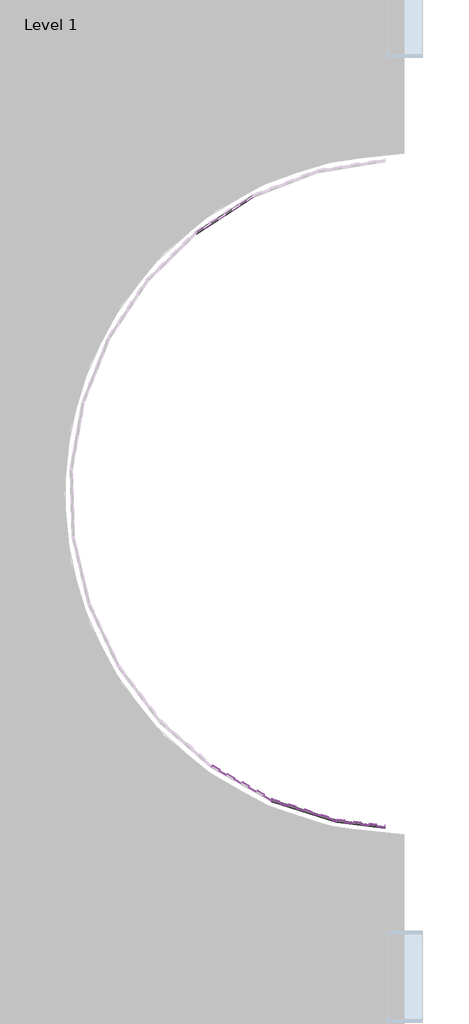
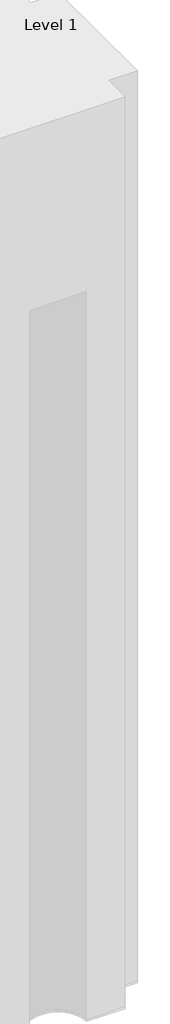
# One storey, part 14 of 20: 124 plates.
"""IFC4 building model written with IfcOpenShell, lengths in millimetres."""

from ifc_helpers import new_model, si_unit, origin, place, context, project, spatial, transform, mapped, element, save
from components import system_panel_glazed_d77d1ebf, system_panel_glazed_769dbdec

model = new_model("IFC4")

# Units and contexts
model_context = context("Model", 3, world=origin())
ifc_project = project(units=[si_unit("LENGTHUNIT", "METRE", prefix="MILLI")], contexts=[model_context])

# Site, building, storey
site = spatial("IfcSite", under=ifc_project)
building = spatial("IfcBuilding", under=site)
storey = spatial("IfcBuildingStorey", under=building, Name="Level 1", Elevation=0.0)

# Plates
placement = place(None, origin())
system_panel_glazed_shape = system_panel_glazed_d77d1ebf(model_context)
element("IfcPlate", 1, ObjectType="System Panel : Glazed", at=placement, inside=storey, context=model_context, shape_type="MappedRepresentation", body=[
    mapped(system_panel_glazed_shape, transform((17428.515669, -10408.6049412, 0.0), x_axis=(0.953815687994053, -0.30039246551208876, 0.0), y_axis=(0.30039246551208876, 0.953815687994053, 0.0), z_axis=(0.0, 0.0, 1.0))),
])
element("IfcPlate", 2, ObjectType="System Panel : Glazed", at=placement, inside=storey, context=model_context, shape_type="MappedRepresentation", body=[
    mapped(system_panel_glazed_shape, transform((17428.515669, -10408.6049412, 3048.0), x_axis=(0.953815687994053, -0.30039246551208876, 0.0), y_axis=(0.30039246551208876, 0.953815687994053, 0.0), z_axis=(0.0, 0.0, 1.0))),
])
element("IfcPlate", 3, ObjectType="System Panel : Glazed", at=placement, inside=storey, context=model_context, shape_type="MappedRepresentation", body=[
    mapped(system_panel_glazed_shape, transform((17428.515669, -10408.6049412, 6096.0), x_axis=(0.953815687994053, -0.30039246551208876, 0.0), y_axis=(0.30039246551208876, 0.953815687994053, 0.0), z_axis=(0.0, 0.0, 1.0))),
])
element("IfcPlate", 4, ObjectType="System Panel : Glazed", at=placement, inside=storey, context=model_context, shape_type="MappedRepresentation", body=[
    mapped(system_panel_glazed_shape, transform((17428.515669, -10408.6049412, 9144.0), x_axis=(0.953815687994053, -0.30039246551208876, 0.0), y_axis=(0.30039246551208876, 0.953815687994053, 0.0), z_axis=(0.0, 0.0, 1.0))),
])
element("IfcPlate", 5, ObjectType="System Panel : Glazed", at=placement, inside=storey, context=model_context, shape_type="MappedRepresentation", body=[
    mapped(system_panel_glazed_shape, transform((17428.515669, -10408.6049412, 12192.0), x_axis=(0.953815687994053, -0.30039246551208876, 0.0), y_axis=(0.30039246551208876, 0.953815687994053, 0.0), z_axis=(0.0, 0.0, 1.0))),
])
element("IfcPlate", 6, ObjectType="System Panel : Glazed", at=placement, inside=storey, context=model_context, shape_type="MappedRepresentation", body=[
    mapped(system_panel_glazed_shape, transform((17428.515669, -10408.6049412, 15240.0), x_axis=(0.953815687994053, -0.30039246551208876, 0.0), y_axis=(0.30039246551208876, 0.953815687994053, 0.0), z_axis=(0.0, 0.0, 1.0))),
])
element("IfcPlate", 7, ObjectType="System Panel : Glazed", at=placement, inside=storey, context=model_context, shape_type="MappedRepresentation", body=[
    mapped(system_panel_glazed_shape, transform((17428.515669, -10408.6049412, 18288.0), x_axis=(0.953815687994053, -0.30039246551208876, 0.0), y_axis=(0.30039246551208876, 0.953815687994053, 0.0), z_axis=(0.0, 0.0, 1.0))),
])
element("IfcPlate", 8, ObjectType="System Panel : Glazed", at=placement, inside=storey, context=model_context, shape_type="MappedRepresentation", body=[
    mapped(system_panel_glazed_shape, transform((17428.515669, -10408.6049412, 21336.0), x_axis=(0.953815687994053, -0.30039246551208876, 0.0), y_axis=(0.30039246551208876, 0.953815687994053, 0.0), z_axis=(0.0, 0.0, 1.0))),
])
element("IfcPlate", 9, ObjectType="System Panel : Glazed", at=placement, inside=storey, context=model_context, shape_type="MappedRepresentation", body=[
    mapped(system_panel_glazed_shape, transform((17428.515669, -10408.6049412, 24384.0), x_axis=(0.953815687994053, -0.30039246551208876, 0.0), y_axis=(0.30039246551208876, 0.953815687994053, 0.0), z_axis=(0.0, 0.0, 1.0))),
])
element("IfcPlate", 10, ObjectType="System Panel : Glazed", at=placement, inside=storey, context=model_context, shape_type="MappedRepresentation", body=[
    mapped(system_panel_glazed_shape, transform((17428.515669, -10408.6049412, 27432.0), x_axis=(0.953815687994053, -0.30039246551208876, 0.0), y_axis=(0.30039246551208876, 0.953815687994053, 0.0), z_axis=(0.0, 0.0, 1.0))),
])
element("IfcPlate", 11, ObjectType="System Panel : Glazed", at=placement, inside=storey, context=model_context, shape_type="MappedRepresentation", body=[
    mapped(system_panel_glazed_shape, transform((17428.515669, -10408.6049412, 30480.0), x_axis=(0.953815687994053, -0.30039246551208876, 0.0), y_axis=(0.30039246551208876, 0.953815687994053, 0.0), z_axis=(0.0, 0.0, 1.0))),
])
element("IfcPlate", 12, ObjectType="System Panel : Glazed", at=placement, inside=storey, context=model_context, shape_type="MappedRepresentation", body=[
    mapped(system_panel_glazed_shape, transform((17428.515669, -10408.6049412, 33528.0), x_axis=(0.953815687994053, -0.30039246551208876, 0.0), y_axis=(0.30039246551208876, 0.953815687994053, 0.0), z_axis=(0.0, 0.0, 1.0))),
])
element("IfcPlate", 13, ObjectType="System Panel : Glazed", at=placement, inside=storey, context=model_context, shape_type="MappedRepresentation", body=[
    mapped(system_panel_glazed_shape, transform((17428.515669, -10408.6049412, 36576.0), x_axis=(0.953815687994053, -0.30039246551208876, 0.0), y_axis=(0.30039246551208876, 0.953815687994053, 0.0), z_axis=(0.0, 0.0, 1.0))),
])
element("IfcPlate", 14, ObjectType="System Panel : Glazed", at=placement, inside=storey, context=model_context, shape_type="MappedRepresentation", body=[
    mapped(system_panel_glazed_shape, transform((17428.515669, -10408.6049412, 39624.0), x_axis=(0.953815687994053, -0.30039246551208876, 0.0), y_axis=(0.30039246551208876, 0.953815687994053, 0.0), z_axis=(0.0, 0.0, 1.0))),
])
element("IfcPlate", 15, ObjectType="System Panel : Glazed", at=placement, inside=storey, context=model_context, shape_type="MappedRepresentation", body=[
    mapped(system_panel_glazed_shape, transform((17428.515669, -10408.6049412, 42672.0), x_axis=(0.953815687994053, -0.30039246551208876, 0.0), y_axis=(0.30039246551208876, 0.953815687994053, 0.0), z_axis=(0.0, 0.0, 1.0))),
])
element("IfcPlate", 16, ObjectType="System Panel : Glazed", at=placement, inside=storey, context=model_context, shape_type="MappedRepresentation", body=[
    mapped(system_panel_glazed_shape, transform((17428.515669, -10408.6049412, 45720.0), x_axis=(0.953815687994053, -0.30039246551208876, 0.0), y_axis=(0.30039246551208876, 0.953815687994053, 0.0), z_axis=(0.0, 0.0, 1.0))),
])
element("IfcPlate", 17, ObjectType="System Panel : Glazed", at=placement, inside=storey, context=model_context, shape_type="MappedRepresentation", body=[
    mapped(system_panel_glazed_shape, transform((17428.515669, -10408.6049412, 48768.0), x_axis=(0.953815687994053, -0.30039246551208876, 0.0), y_axis=(0.30039246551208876, 0.953815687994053, 0.0), z_axis=(0.0, 0.0, 1.0))),
])
element("IfcPlate", 18, ObjectType="System Panel : Glazed", at=placement, inside=storey, context=model_context, shape_type="MappedRepresentation", body=[
    mapped(system_panel_glazed_shape, transform((17428.515669, -10408.6049412, 51816.0), x_axis=(0.953815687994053, -0.30039246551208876, 0.0), y_axis=(0.30039246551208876, 0.953815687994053, 0.0), z_axis=(0.0, 0.0, 1.0))),
])
element("IfcPlate", 19, ObjectType="System Panel : Glazed", at=placement, inside=storey, context=model_context, shape_type="MappedRepresentation", body=[
    mapped(system_panel_glazed_shape, transform((17428.515669, -10408.6049412, 54864.0), x_axis=(0.953815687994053, -0.30039246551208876, 0.0), y_axis=(0.30039246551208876, 0.953815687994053, 0.0), z_axis=(0.0, 0.0, 1.0))),
])
element("IfcPlate", 20, ObjectType="System Panel : Glazed", at=placement, inside=storey, context=model_context, shape_type="MappedRepresentation", body=[
    mapped(system_panel_glazed_shape, transform((17428.515669, -10408.6049412, 57912.0), x_axis=(0.953815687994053, -0.30039246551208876, 0.0), y_axis=(0.30039246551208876, 0.953815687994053, 0.0), z_axis=(0.0, 0.0, 1.0))),
])
element("IfcPlate", 21, ObjectType="System Panel : Glazed", at=placement, inside=storey, context=model_context, shape_type="MappedRepresentation", body=[
    mapped(system_panel_glazed_shape, transform((16593.6436197, -10047.6579112, 60960.0), x_axis=(0.8722386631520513, -0.4890804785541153, 0.0), y_axis=(0.4890804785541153, 0.8722386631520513, 0.0), z_axis=(0.0, 0.0, 1.0))),
])
element("IfcPlate", 22, ObjectType="System Panel : Glazed", at=placement, inside=storey, context=model_context, shape_type="MappedRepresentation", body=[
    mapped(system_panel_glazed_shape, transform((17428.515669, -10408.6049412, 60960.0), x_axis=(0.953815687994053, -0.30039246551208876, 0.0), y_axis=(0.30039246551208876, 0.953815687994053, 0.0), z_axis=(0.0, 0.0, 1.0))),
])
element("IfcPlate", 23, ObjectType="System Panel : Glazed", at=placement, inside=storey, context=model_context, shape_type="MappedRepresentation", body=[
    mapped(system_panel_glazed_shape, transform((16593.6436197, -10047.6579112, 64008.0), x_axis=(0.8722386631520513, -0.4890804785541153, 0.0), y_axis=(0.4890804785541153, 0.8722386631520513, 0.0), z_axis=(0.0, 0.0, 1.0))),
])
element("IfcPlate", 24, ObjectType="System Panel : Glazed", at=placement, inside=storey, context=model_context, shape_type="MappedRepresentation", body=[
    mapped(system_panel_glazed_shape, transform((17428.515669, -10408.6049412, 64008.0), x_axis=(0.953815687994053, -0.30039246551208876, 0.0), y_axis=(0.30039246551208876, 0.953815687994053, 0.0), z_axis=(0.0, 0.0, 1.0))),
])
element("IfcPlate", 25, ObjectType="System Panel : Glazed", at=placement, inside=storey, context=model_context, shape_type="MappedRepresentation", body=[
    mapped(system_panel_glazed_shape, transform((16593.6436197, -10047.6579112, 67056.0), x_axis=(0.8722386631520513, -0.4890804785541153, 0.0), y_axis=(0.4890804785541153, 0.8722386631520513, 0.0), z_axis=(0.0, 0.0, 1.0))),
])
element("IfcPlate", 26, ObjectType="System Panel : Glazed", at=placement, inside=storey, context=model_context, shape_type="MappedRepresentation", body=[
    mapped(system_panel_glazed_shape, transform((17428.515669, -10408.6049412, 67056.0), x_axis=(0.953815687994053, -0.30039246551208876, 0.0), y_axis=(0.30039246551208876, 0.953815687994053, 0.0), z_axis=(0.0, 0.0, 1.0))),
])
element("IfcPlate", 27, ObjectType="System Panel : Glazed", at=placement, inside=storey, context=model_context, shape_type="MappedRepresentation", body=[
    mapped(system_panel_glazed_shape, transform((16593.6436197, -10047.6579112, 70104.0), x_axis=(0.8722386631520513, -0.4890804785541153, 0.0), y_axis=(0.4890804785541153, 0.8722386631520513, 0.0), z_axis=(0.0, 0.0, 1.0))),
])
element("IfcPlate", 28, ObjectType="System Panel : Glazed", at=placement, inside=storey, context=model_context, shape_type="MappedRepresentation", body=[
    mapped(system_panel_glazed_shape, transform((17428.515669, -10408.6049412, 70104.0), x_axis=(0.953815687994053, -0.30039246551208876, 0.0), y_axis=(0.30039246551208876, 0.953815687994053, 0.0), z_axis=(0.0, 0.0, 1.0))),
])
element("IfcPlate", 29, ObjectType="System Panel : Glazed", at=placement, inside=storey, context=model_context, shape_type="MappedRepresentation", body=[
    mapped(system_panel_glazed_shape, transform((16593.6436197, -10047.6579112, 73152.0), x_axis=(0.8722386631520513, -0.4890804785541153, 0.0), y_axis=(0.4890804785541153, 0.8722386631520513, 0.0), z_axis=(0.0, 0.0, 1.0))),
])
element("IfcPlate", 30, ObjectType="System Panel : Glazed", at=placement, inside=storey, context=model_context, shape_type="MappedRepresentation", body=[
    mapped(system_panel_glazed_shape, transform((17428.515669, -10408.6049412, 73152.0), x_axis=(0.953815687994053, -0.30039246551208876, 0.0), y_axis=(0.30039246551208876, 0.953815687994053, 0.0), z_axis=(0.0, 0.0, 1.0))),
])
element("IfcPlate", 31, ObjectType="System Panel : Glazed", at=placement, inside=storey, context=model_context, shape_type="MappedRepresentation", body=[
    mapped(system_panel_glazed_shape, transform((16593.6436197, -10047.6579112, 76200.0), x_axis=(0.8722386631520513, -0.4890804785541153, 0.0), y_axis=(0.4890804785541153, 0.8722386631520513, 0.0), z_axis=(0.0, 0.0, 1.0))),
])
element("IfcPlate", 32, ObjectType="System Panel : Glazed", at=placement, inside=storey, context=model_context, shape_type="MappedRepresentation", body=[
    mapped(system_panel_glazed_shape, transform((17428.515669, -10408.6049412, 76200.0), x_axis=(0.953815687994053, -0.30039246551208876, 0.0), y_axis=(0.30039246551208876, 0.953815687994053, 0.0), z_axis=(0.0, 0.0, 1.0))),
])
element("IfcPlate", 33, ObjectType="System Panel : Glazed", at=placement, inside=storey, context=model_context, shape_type="MappedRepresentation", body=[
    mapped(system_panel_glazed_shape, transform((16593.6436197, -10047.6579112, 79248.0), x_axis=(0.8722386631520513, -0.4890804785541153, 0.0), y_axis=(0.4890804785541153, 0.8722386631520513, 0.0), z_axis=(0.0, 0.0, 1.0))),
])
element("IfcPlate", 34, ObjectType="System Panel : Glazed", at=placement, inside=storey, context=model_context, shape_type="MappedRepresentation", body=[
    mapped(system_panel_glazed_shape, transform((17428.515669, -10408.6049412, 79248.0), x_axis=(0.953815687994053, -0.30039246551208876, 0.0), y_axis=(0.30039246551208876, 0.953815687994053, 0.0), z_axis=(0.0, 0.0, 1.0))),
])
element("IfcPlate", 35, ObjectType="System Panel : Glazed", at=placement, inside=storey, context=model_context, shape_type="MappedRepresentation", body=[
    mapped(system_panel_glazed_shape, transform((16593.6436197, -10047.6579112, 82296.0), x_axis=(0.8722386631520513, -0.4890804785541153, 0.0), y_axis=(0.4890804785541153, 0.8722386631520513, 0.0), z_axis=(0.0, 0.0, 1.0))),
])
element("IfcPlate", 36, ObjectType="System Panel : Glazed", at=placement, inside=storey, context=model_context, shape_type="MappedRepresentation", body=[
    mapped(system_panel_glazed_shape, transform((17428.515669, -10408.6049412, 82296.0), x_axis=(0.953815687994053, -0.30039246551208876, 0.0), y_axis=(0.30039246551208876, 0.953815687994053, 0.0), z_axis=(0.0, 0.0, 1.0))),
])
element("IfcPlate", 37, ObjectType="System Panel : Glazed", at=placement, inside=storey, context=model_context, shape_type="MappedRepresentation", body=[
    mapped(system_panel_glazed_shape, transform((16593.6436197, -10047.6579112, 85344.0), x_axis=(0.8722386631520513, -0.4890804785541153, 0.0), y_axis=(0.4890804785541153, 0.8722386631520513, 0.0), z_axis=(0.0, 0.0, 1.0))),
])
element("IfcPlate", 38, ObjectType="System Panel : Glazed", at=placement, inside=storey, context=model_context, shape_type="MappedRepresentation", body=[
    mapped(system_panel_glazed_shape, transform((17428.515669, -10408.6049412, 85344.0), x_axis=(0.953815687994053, -0.30039246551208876, 0.0), y_axis=(0.30039246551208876, 0.953815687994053, 0.0), z_axis=(0.0, 0.0, 1.0))),
])
element("IfcPlate", 39, ObjectType="System Panel : Glazed", at=placement, inside=storey, context=model_context, shape_type="MappedRepresentation", body=[
    mapped(system_panel_glazed_shape, transform((16593.6436197, -10047.6579112, 88392.0), x_axis=(0.8722386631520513, -0.4890804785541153, 0.0), y_axis=(0.4890804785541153, 0.8722386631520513, 0.0), z_axis=(0.0, 0.0, 1.0))),
])
element("IfcPlate", 40, ObjectType="System Panel : Glazed", at=placement, inside=storey, context=model_context, shape_type="MappedRepresentation", body=[
    mapped(system_panel_glazed_shape, transform((17428.515669, -10408.6049412, 88392.0), x_axis=(0.953815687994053, -0.30039246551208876, 0.0), y_axis=(0.30039246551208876, 0.953815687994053, 0.0), z_axis=(0.0, 0.0, 1.0))),
])
element("IfcPlate", 41, ObjectType="System Panel : Glazed", at=placement, inside=storey, context=model_context, shape_type="MappedRepresentation", body=[
    mapped(system_panel_glazed_shape, transform((16593.6436197, -10047.6579112, 91440.0), x_axis=(0.8722386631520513, -0.4890804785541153, 0.0), y_axis=(0.4890804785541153, 0.8722386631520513, 0.0), z_axis=(0.0, 0.0, 1.0))),
])
element("IfcPlate", 42, ObjectType="System Panel : Glazed", at=placement, inside=storey, context=model_context, shape_type="MappedRepresentation", body=[
    mapped(system_panel_glazed_shape, transform((17428.515669, -10408.6049412, 91440.0), x_axis=(0.953815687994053, -0.30039246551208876, 0.0), y_axis=(0.30039246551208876, 0.953815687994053, 0.0), z_axis=(0.0, 0.0, 1.0))),
])
element("IfcPlate", 43, ObjectType="System Panel : Glazed", at=placement, inside=storey, context=model_context, shape_type="MappedRepresentation", body=[
    mapped(system_panel_glazed_shape, transform((16593.6436197, -10047.6579112, 94488.0), x_axis=(0.8722386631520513, -0.4890804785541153, 0.0), y_axis=(0.4890804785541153, 0.8722386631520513, 0.0), z_axis=(0.0, 0.0, 1.0))),
])
element("IfcPlate", 44, ObjectType="System Panel : Glazed", at=placement, inside=storey, context=model_context, shape_type="MappedRepresentation", body=[
    mapped(system_panel_glazed_shape, transform((17428.515669, -10408.6049412, 94488.0), x_axis=(0.953815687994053, -0.30039246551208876, 0.0), y_axis=(0.30039246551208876, 0.953815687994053, 0.0), z_axis=(0.0, 0.0, 1.0))),
])
element("IfcPlate", 45, ObjectType="System Panel : Glazed", at=placement, inside=storey, context=model_context, shape_type="MappedRepresentation", body=[
    mapped(system_panel_glazed_shape, transform((16593.6436197, -10047.6579112, 97536.0), x_axis=(0.8722386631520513, -0.4890804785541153, 0.0), y_axis=(0.4890804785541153, 0.8722386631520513, 0.0), z_axis=(0.0, 0.0, 1.0))),
])
element("IfcPlate", 46, ObjectType="System Panel : Glazed", at=placement, inside=storey, context=model_context, shape_type="MappedRepresentation", body=[
    mapped(system_panel_glazed_shape, transform((17428.515669, -10408.6049412, 97536.0), x_axis=(0.953815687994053, -0.30039246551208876, 0.0), y_axis=(0.30039246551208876, 0.953815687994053, 0.0), z_axis=(0.0, 0.0, 1.0))),
])
element("IfcPlate", 47, ObjectType="System Panel : Glazed", at=placement, inside=storey, context=model_context, shape_type="MappedRepresentation", body=[
    mapped(system_panel_glazed_shape, transform((16593.6436197, -10047.6579112, 100584.0), x_axis=(0.8722386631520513, -0.4890804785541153, 0.0), y_axis=(0.4890804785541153, 0.8722386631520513, 0.0), z_axis=(0.0, 0.0, 1.0))),
])
element("IfcPlate", 48, ObjectType="System Panel : Glazed", at=placement, inside=storey, context=model_context, shape_type="MappedRepresentation", body=[
    mapped(system_panel_glazed_shape, transform((17428.515669, -10408.6049412, 100584.0), x_axis=(0.953815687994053, -0.30039246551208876, 0.0), y_axis=(0.30039246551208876, 0.953815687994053, 0.0), z_axis=(0.0, 0.0, 1.0))),
])
element("IfcPlate", 49, ObjectType="System Panel : Glazed", at=placement, inside=storey, context=model_context, shape_type="MappedRepresentation", body=[
    mapped(system_panel_glazed_shape, transform((16365.3324925, -2466.2258707, 0.0), x_axis=(-0.8412279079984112, -0.540680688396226, 0.0), y_axis=(0.540680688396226, -0.8412279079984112, 0.0), z_axis=(0.0, 0.0, 1.0))),
])
element("IfcPlate", 50, ObjectType="System Panel : Glazed", at=placement, inside=storey, context=model_context, shape_type="MappedRepresentation", body=[
    mapped(system_panel_glazed_shape, transform((16365.3324925, -2466.2258707, 3048.0), x_axis=(-0.8412279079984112, -0.540680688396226, 0.0), y_axis=(0.540680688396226, -0.8412279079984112, 0.0), z_axis=(0.0, 0.0, 1.0))),
])
element("IfcPlate", 51, ObjectType="System Panel : Glazed", at=placement, inside=storey, context=model_context, shape_type="MappedRepresentation", body=[
    mapped(system_panel_glazed_shape, transform((16365.3324925, -2466.2258707, 6096.0), x_axis=(-0.8412279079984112, -0.540680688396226, 0.0), y_axis=(0.540680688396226, -0.8412279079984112, 0.0), z_axis=(0.0, 0.0, 1.0))),
])
element("IfcPlate", 52, ObjectType="System Panel : Glazed", at=placement, inside=storey, context=model_context, shape_type="MappedRepresentation", body=[
    mapped(system_panel_glazed_shape, transform((16365.3324925, -2466.2258707, 9144.0), x_axis=(-0.8412279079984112, -0.540680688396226, 0.0), y_axis=(0.540680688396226, -0.8412279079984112, 0.0), z_axis=(0.0, 0.0, 1.0))),
])
element("IfcPlate", 53, ObjectType="System Panel : Glazed", at=placement, inside=storey, context=model_context, shape_type="MappedRepresentation", body=[
    mapped(system_panel_glazed_shape, transform((16365.3324925, -2466.2258707, 12192.0), x_axis=(-0.8412279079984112, -0.540680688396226, 0.0), y_axis=(0.540680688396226, -0.8412279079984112, 0.0), z_axis=(0.0, 0.0, 1.0))),
])
element("IfcPlate", 54, ObjectType="System Panel : Glazed", at=placement, inside=storey, context=model_context, shape_type="MappedRepresentation", body=[
    mapped(system_panel_glazed_shape, transform((16365.3324925, -2466.2258707, 15240.0), x_axis=(-0.8412279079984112, -0.540680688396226, 0.0), y_axis=(0.540680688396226, -0.8412279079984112, 0.0), z_axis=(0.0, 0.0, 1.0))),
])
element("IfcPlate", 55, ObjectType="System Panel : Glazed", at=placement, inside=storey, context=model_context, shape_type="MappedRepresentation", body=[
    mapped(system_panel_glazed_shape, transform((16365.3324925, -2466.2258707, 18288.0), x_axis=(-0.8412279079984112, -0.540680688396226, 0.0), y_axis=(0.540680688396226, -0.8412279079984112, 0.0), z_axis=(0.0, 0.0, 1.0))),
])
element("IfcPlate", 56, ObjectType="System Panel : Glazed", at=placement, inside=storey, context=model_context, shape_type="MappedRepresentation", body=[
    mapped(system_panel_glazed_shape, transform((16365.3324925, -2466.2258707, 21336.0), x_axis=(-0.8412279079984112, -0.540680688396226, 0.0), y_axis=(0.540680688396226, -0.8412279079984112, 0.0), z_axis=(0.0, 0.0, 1.0))),
])
element("IfcPlate", 57, ObjectType="System Panel : Glazed", at=placement, inside=storey, context=model_context, shape_type="MappedRepresentation", body=[
    mapped(system_panel_glazed_shape, transform((16365.3324925, -2466.2258707, 24384.0), x_axis=(-0.8412279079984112, -0.540680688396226, 0.0), y_axis=(0.540680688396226, -0.8412279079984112, 0.0), z_axis=(0.0, 0.0, 1.0))),
])
element("IfcPlate", 58, ObjectType="System Panel : Glazed", at=placement, inside=storey, context=model_context, shape_type="MappedRepresentation", body=[
    mapped(system_panel_glazed_shape, transform((16365.3324925, -2466.2258707, 27432.0), x_axis=(-0.8412279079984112, -0.540680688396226, 0.0), y_axis=(0.540680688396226, -0.8412279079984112, 0.0), z_axis=(0.0, 0.0, 1.0))),
])
element("IfcPlate", 59, ObjectType="System Panel : Glazed", at=placement, inside=storey, context=model_context, shape_type="MappedRepresentation", body=[
    mapped(system_panel_glazed_shape, transform((16365.3324925, -2466.2258707, 30480.0), x_axis=(-0.8412279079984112, -0.540680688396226, 0.0), y_axis=(0.540680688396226, -0.8412279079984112, 0.0), z_axis=(0.0, 0.0, 1.0))),
])
element("IfcPlate", 60, ObjectType="System Panel : Glazed", at=placement, inside=storey, context=model_context, shape_type="MappedRepresentation", body=[
    mapped(system_panel_glazed_shape, transform((16365.3324925, -2466.2258707, 33528.0), x_axis=(-0.8412279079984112, -0.540680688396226, 0.0), y_axis=(0.540680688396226, -0.8412279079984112, 0.0), z_axis=(0.0, 0.0, 1.0))),
])
element("IfcPlate", 61, ObjectType="System Panel : Glazed", at=placement, inside=storey, context=model_context, shape_type="MappedRepresentation", body=[
    mapped(system_panel_glazed_shape, transform((16365.3324925, -2466.2258707, 36576.0), x_axis=(-0.8412279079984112, -0.540680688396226, 0.0), y_axis=(0.540680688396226, -0.8412279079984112, 0.0), z_axis=(0.0, 0.0, 1.0))),
])
element("IfcPlate", 62, ObjectType="System Panel : Glazed", at=placement, inside=storey, context=model_context, shape_type="MappedRepresentation", body=[
    mapped(system_panel_glazed_shape, transform((16365.3324925, -2466.2258707, 39624.0), x_axis=(-0.8412279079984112, -0.540680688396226, 0.0), y_axis=(0.540680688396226, -0.8412279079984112, 0.0), z_axis=(0.0, 0.0, 1.0))),
])
element("IfcPlate", 63, ObjectType="System Panel : Glazed", at=placement, inside=storey, context=model_context, shape_type="MappedRepresentation", body=[
    mapped(system_panel_glazed_shape, transform((16365.3324925, -2466.2258707, 42672.0), x_axis=(-0.8412279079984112, -0.540680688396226, 0.0), y_axis=(0.540680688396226, -0.8412279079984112, 0.0), z_axis=(0.0, 0.0, 1.0))),
])
element("IfcPlate", 64, ObjectType="System Panel : Glazed", at=placement, inside=storey, context=model_context, shape_type="MappedRepresentation", body=[
    mapped(system_panel_glazed_shape, transform((16365.3324925, -2466.2258707, 45720.0), x_axis=(-0.8412279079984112, -0.540680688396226, 0.0), y_axis=(0.540680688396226, -0.8412279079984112, 0.0), z_axis=(0.0, 0.0, 1.0))),
])
element("IfcPlate", 65, ObjectType="System Panel : Glazed", at=placement, inside=storey, context=model_context, shape_type="MappedRepresentation", body=[
    mapped(system_panel_glazed_shape, transform((16365.3324925, -2466.2258707, 48768.0), x_axis=(-0.8412279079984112, -0.540680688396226, 0.0), y_axis=(0.540680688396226, -0.8412279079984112, 0.0), z_axis=(0.0, 0.0, 1.0))),
])
element("IfcPlate", 66, ObjectType="System Panel : Glazed", at=placement, inside=storey, context=model_context, shape_type="MappedRepresentation", body=[
    mapped(system_panel_glazed_shape, transform((16365.3324925, -2466.2258707, 51816.0), x_axis=(-0.8412279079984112, -0.540680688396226, 0.0), y_axis=(0.540680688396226, -0.8412279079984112, 0.0), z_axis=(0.0, 0.0, 1.0))),
])
element("IfcPlate", 67, ObjectType="System Panel : Glazed", at=placement, inside=storey, context=model_context, shape_type="MappedRepresentation", body=[
    mapped(system_panel_glazed_shape, transform((16365.3324925, -2466.2258707, 54864.0), x_axis=(-0.8412279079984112, -0.540680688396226, 0.0), y_axis=(0.540680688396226, -0.8412279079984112, 0.0), z_axis=(0.0, 0.0, 1.0))),
])
element("IfcPlate", 68, ObjectType="System Panel : Glazed", at=placement, inside=storey, context=model_context, shape_type="MappedRepresentation", body=[
    mapped(system_panel_glazed_shape, transform((16365.3324925, -2466.2258707, 57912.0), x_axis=(-0.8412279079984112, -0.540680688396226, 0.0), y_axis=(0.540680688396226, -0.8412279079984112, 0.0), z_axis=(0.0, 0.0, 1.0))),
])
element("IfcPlate", 69, ObjectType="System Panel : Glazed", at=placement, inside=storey, context=model_context, shape_type="MappedRepresentation", body=[
    mapped(system_panel_glazed_shape, transform((16365.3324925, -2466.2258707, 60960.0), x_axis=(-0.8412279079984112, -0.540680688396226, 0.0), y_axis=(0.540680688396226, -0.8412279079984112, 0.0), z_axis=(0.0, 0.0, 1.0))),
])
element("IfcPlate", 70, ObjectType="System Panel : Glazed", at=placement, inside=storey, context=model_context, shape_type="MappedRepresentation", body=[
    mapped(system_panel_glazed_shape, transform((16365.3324925, -2466.2258707, 64008.0), x_axis=(-0.8412279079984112, -0.540680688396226, 0.0), y_axis=(0.540680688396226, -0.8412279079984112, 0.0), z_axis=(0.0, 0.0, 1.0))),
])
element("IfcPlate", 71, ObjectType="System Panel : Glazed", at=placement, inside=storey, context=model_context, shape_type="MappedRepresentation", body=[
    mapped(system_panel_glazed_shape, transform((16365.3324925, -2466.2258707, 67056.0), x_axis=(-0.8412279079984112, -0.540680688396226, 0.0), y_axis=(0.540680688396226, -0.8412279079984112, 0.0), z_axis=(0.0, 0.0, 1.0))),
])
element("IfcPlate", 72, ObjectType="System Panel : Glazed", at=placement, inside=storey, context=model_context, shape_type="MappedRepresentation", body=[
    mapped(system_panel_glazed_shape, transform((16365.3324925, -2466.2258707, 70104.0), x_axis=(-0.8412279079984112, -0.540680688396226, 0.0), y_axis=(0.540680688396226, -0.8412279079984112, 0.0), z_axis=(0.0, 0.0, 1.0))),
])
element("IfcPlate", 73, ObjectType="System Panel : Glazed", at=placement, inside=storey, context=model_context, shape_type="MappedRepresentation", body=[
    mapped(system_panel_glazed_shape, transform((16593.6436197, -10047.6579112, 103632.0), x_axis=(0.8722386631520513, -0.4890804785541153, 0.0), y_axis=(0.4890804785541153, 0.8722386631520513, 0.0), z_axis=(0.0, 0.0, 1.0))),
])
element("IfcPlate", 74, ObjectType="System Panel : Glazed", at=placement, inside=storey, context=model_context, shape_type="MappedRepresentation", body=[
    mapped(system_panel_glazed_shape, transform((17428.515669, -10408.6049412, 103632.0), x_axis=(0.953815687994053, -0.30039246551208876, 0.0), y_axis=(0.30039246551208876, 0.953815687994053, 0.0), z_axis=(0.0, 0.0, 1.0))),
])
element("IfcPlate", 75, ObjectType="System Panel : Glazed", at=placement, inside=storey, context=model_context, shape_type="MappedRepresentation", body=[
    mapped(system_panel_glazed_shape, transform((16593.6436197, -10047.6579112, 106680.0), x_axis=(0.8722386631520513, -0.4890804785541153, 0.0), y_axis=(0.4890804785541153, 0.8722386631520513, 0.0), z_axis=(0.0, 0.0, 1.0))),
])
element("IfcPlate", 76, ObjectType="System Panel : Glazed", at=placement, inside=storey, context=model_context, shape_type="MappedRepresentation", body=[
    mapped(system_panel_glazed_shape, transform((17428.515669, -10408.6049412, 106680.0), x_axis=(0.953815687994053, -0.30039246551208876, 0.0), y_axis=(0.30039246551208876, 0.953815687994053, 0.0), z_axis=(0.0, 0.0, 1.0))),
])
element("IfcPlate", 77, ObjectType="System Panel : Glazed", at=placement, inside=storey, context=model_context, shape_type="MappedRepresentation", body=[
    mapped(system_panel_glazed_shape, transform((16593.6436197, -10047.6579112, 109728.0), x_axis=(0.8722386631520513, -0.4890804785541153, 0.0), y_axis=(0.4890804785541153, 0.8722386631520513, 0.0), z_axis=(0.0, 0.0, 1.0))),
])
element("IfcPlate", 78, ObjectType="System Panel : Glazed", at=placement, inside=storey, context=model_context, shape_type="MappedRepresentation", body=[
    mapped(system_panel_glazed_shape, transform((17428.515669, -10408.6049412, 109728.0), x_axis=(0.953815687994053, -0.30039246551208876, 0.0), y_axis=(0.30039246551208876, 0.953815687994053, 0.0), z_axis=(0.0, 0.0, 1.0))),
])
element("IfcPlate", 79, ObjectType="System Panel : Glazed", at=placement, inside=storey, context=model_context, shape_type="MappedRepresentation", body=[
    mapped(system_panel_glazed_shape, transform((16593.6436197, -10047.6579112, 112776.0), x_axis=(0.8722386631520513, -0.4890804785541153, 0.0), y_axis=(0.4890804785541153, 0.8722386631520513, 0.0), z_axis=(0.0, 0.0, 1.0))),
])
element("IfcPlate", 80, ObjectType="System Panel : Glazed", at=placement, inside=storey, context=model_context, shape_type="MappedRepresentation", body=[
    mapped(system_panel_glazed_shape, transform((17428.515669, -10408.6049412, 112776.0), x_axis=(0.953815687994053, -0.30039246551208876, 0.0), y_axis=(0.30039246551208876, 0.953815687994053, 0.0), z_axis=(0.0, 0.0, 1.0))),
])
element("IfcPlate", 81, ObjectType="System Panel : Glazed", at=placement, inside=storey, context=model_context, shape_type="MappedRepresentation", body=[
    mapped(system_panel_glazed_shape, transform((16593.6436197, -10047.6579112, 115824.0), x_axis=(0.8722386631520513, -0.4890804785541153, 0.0), y_axis=(0.4890804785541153, 0.8722386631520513, 0.0), z_axis=(0.0, 0.0, 1.0))),
])
element("IfcPlate", 82, ObjectType="System Panel : Glazed", at=placement, inside=storey, context=model_context, shape_type="MappedRepresentation", body=[
    mapped(system_panel_glazed_shape, transform((17428.515669, -10408.6049412, 115824.0), x_axis=(0.953815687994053, -0.30039246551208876, 0.0), y_axis=(0.30039246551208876, 0.953815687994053, 0.0), z_axis=(0.0, 0.0, 1.0))),
])
element("IfcPlate", 83, ObjectType="System Panel : Glazed", at=placement, inside=storey, context=model_context, shape_type="MappedRepresentation", body=[
    mapped(system_panel_glazed_shape, transform((16593.6436197, -10047.6579112, 118872.0), x_axis=(0.8722386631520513, -0.4890804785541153, 0.0), y_axis=(0.4890804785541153, 0.8722386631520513, 0.0), z_axis=(0.0, 0.0, 1.0))),
])
element("IfcPlate", 84, ObjectType="System Panel : Glazed", at=placement, inside=storey, context=model_context, shape_type="MappedRepresentation", body=[
    mapped(system_panel_glazed_shape, transform((17428.515669, -10408.6049412, 118872.0), x_axis=(0.953815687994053, -0.30039246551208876, 0.0), y_axis=(0.30039246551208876, 0.953815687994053, 0.0), z_axis=(0.0, 0.0, 1.0))),
])
system_panel_glazed_2_shape = system_panel_glazed_769dbdec(model_context)
element("IfcPlate", 85, ObjectType="System Panel : Glazed", at=placement, inside=storey, context=model_context, shape_type="MappedRepresentation", body=[
    mapped(system_panel_glazed_2_shape, transform((18185.706128, -10587.6892472, 0.0), x_axis=(0.9916551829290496, -0.12891857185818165, 0.0), y_axis=(0.12891857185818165, 0.9916551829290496, 0.0), z_axis=(0.0, 0.0, 1.0))),
])
element("IfcPlate", 86, ObjectType="System Panel : Glazed", at=placement, inside=storey, context=model_context, shape_type="MappedRepresentation", body=[
    mapped(system_panel_glazed_2_shape, transform((18185.706128, -10587.6892472, 3048.0), x_axis=(0.9916551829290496, -0.12891857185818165, 0.0), y_axis=(0.12891857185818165, 0.9916551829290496, 0.0), z_axis=(0.0, 0.0, 1.0))),
])
element("IfcPlate", 87, ObjectType="System Panel : Glazed", at=placement, inside=storey, context=model_context, shape_type="MappedRepresentation", body=[
    mapped(system_panel_glazed_2_shape, transform((18185.706128, -10587.6892472, 6096.0), x_axis=(0.9916551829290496, -0.12891857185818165, 0.0), y_axis=(0.12891857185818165, 0.9916551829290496, 0.0), z_axis=(0.0, 0.0, 1.0))),
])
element("IfcPlate", 88, ObjectType="System Panel : Glazed", at=placement, inside=storey, context=model_context, shape_type="MappedRepresentation", body=[
    mapped(system_panel_glazed_2_shape, transform((18185.706128, -10587.6892472, 9144.0), x_axis=(0.9916551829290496, -0.12891857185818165, 0.0), y_axis=(0.12891857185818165, 0.9916551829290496, 0.0), z_axis=(0.0, 0.0, 1.0))),
])
element("IfcPlate", 89, ObjectType="System Panel : Glazed", at=placement, inside=storey, context=model_context, shape_type="MappedRepresentation", body=[
    mapped(system_panel_glazed_2_shape, transform((18185.706128, -10587.6892472, 12192.0), x_axis=(0.9916551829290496, -0.12891857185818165, 0.0), y_axis=(0.12891857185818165, 0.9916551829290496, 0.0), z_axis=(0.0, 0.0, 1.0))),
])
element("IfcPlate", 90, ObjectType="System Panel : Glazed", at=placement, inside=storey, context=model_context, shape_type="MappedRepresentation", body=[
    mapped(system_panel_glazed_2_shape, transform((18185.706128, -10587.6892472, 15240.0), x_axis=(0.9916551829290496, -0.12891857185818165, 0.0), y_axis=(0.12891857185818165, 0.9916551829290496, 0.0), z_axis=(0.0, 0.0, 1.0))),
])
element("IfcPlate", 91, ObjectType="System Panel : Glazed", at=placement, inside=storey, context=model_context, shape_type="MappedRepresentation", body=[
    mapped(system_panel_glazed_2_shape, transform((18185.706128, -10587.6892472, 18288.0), x_axis=(0.9916551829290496, -0.12891857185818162, 0.0), y_axis=(0.12891857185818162, 0.9916551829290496, 0.0), z_axis=(0.0, 0.0, 1.0))),
])
element("IfcPlate", 92, ObjectType="System Panel : Glazed", at=placement, inside=storey, context=model_context, shape_type="MappedRepresentation", body=[
    mapped(system_panel_glazed_2_shape, transform((18185.706128, -10587.6892472, 21336.0), x_axis=(0.9916551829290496, -0.12891857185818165, 0.0), y_axis=(0.12891857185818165, 0.9916551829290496, 0.0), z_axis=(0.0, 0.0, 1.0))),
])
element("IfcPlate", 93, ObjectType="System Panel : Glazed", at=placement, inside=storey, context=model_context, shape_type="MappedRepresentation", body=[
    mapped(system_panel_glazed_2_shape, transform((18185.706128, -10587.6892472, 24384.0), x_axis=(0.9916551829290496, -0.12891857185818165, 0.0), y_axis=(0.12891857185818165, 0.9916551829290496, 0.0), z_axis=(0.0, 0.0, 1.0))),
])
element("IfcPlate", 94, ObjectType="System Panel : Glazed", at=placement, inside=storey, context=model_context, shape_type="MappedRepresentation", body=[
    mapped(system_panel_glazed_2_shape, transform((18185.706128, -10587.6892472, 27432.0), x_axis=(0.9916551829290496, -0.12891857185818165, 0.0), y_axis=(0.12891857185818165, 0.9916551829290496, 0.0), z_axis=(0.0, 0.0, 1.0))),
])
element("IfcPlate", 95, ObjectType="System Panel : Glazed", at=placement, inside=storey, context=model_context, shape_type="MappedRepresentation", body=[
    mapped(system_panel_glazed_2_shape, transform((18185.706128, -10587.6892472, 30480.0), x_axis=(0.9916551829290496, -0.12891857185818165, 0.0), y_axis=(0.12891857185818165, 0.9916551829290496, 0.0), z_axis=(0.0, 0.0, 1.0))),
])
element("IfcPlate", 96, ObjectType="System Panel : Glazed", at=placement, inside=storey, context=model_context, shape_type="MappedRepresentation", body=[
    mapped(system_panel_glazed_2_shape, transform((18185.706128, -10587.6892472, 33528.0), x_axis=(0.9916551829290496, -0.12891857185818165, 0.0), y_axis=(0.12891857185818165, 0.9916551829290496, 0.0), z_axis=(0.0, 0.0, 1.0))),
])
element("IfcPlate", 97, ObjectType="System Panel : Glazed", at=placement, inside=storey, context=model_context, shape_type="MappedRepresentation", body=[
    mapped(system_panel_glazed_2_shape, transform((18185.706128, -10587.6892472, 36576.0), x_axis=(0.9916551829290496, -0.12891857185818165, 0.0), y_axis=(0.12891857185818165, 0.9916551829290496, 0.0), z_axis=(0.0, 0.0, 1.0))),
])
element("IfcPlate", 98, ObjectType="System Panel : Glazed", at=placement, inside=storey, context=model_context, shape_type="MappedRepresentation", body=[
    mapped(system_panel_glazed_2_shape, transform((18185.706128, -10587.6892472, 39624.0), x_axis=(0.9916551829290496, -0.12891857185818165, 0.0), y_axis=(0.12891857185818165, 0.9916551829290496, 0.0), z_axis=(0.0, 0.0, 1.0))),
])
element("IfcPlate", 99, ObjectType="System Panel : Glazed", at=placement, inside=storey, context=model_context, shape_type="MappedRepresentation", body=[
    mapped(system_panel_glazed_2_shape, transform((18185.706128, -10587.6892472, 42672.0), x_axis=(0.9916551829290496, -0.12891857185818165, 0.0), y_axis=(0.12891857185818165, 0.9916551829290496, 0.0), z_axis=(0.0, 0.0, 1.0))),
])
element("IfcPlate", 100, ObjectType="System Panel : Glazed", at=placement, inside=storey, context=model_context, shape_type="MappedRepresentation", body=[
    mapped(system_panel_glazed_2_shape, transform((18185.706128, -10587.6892472, 45720.0), x_axis=(0.9916551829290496, -0.12891857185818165, 0.0), y_axis=(0.12891857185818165, 0.9916551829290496, 0.0), z_axis=(0.0, 0.0, 1.0))),
])
element("IfcPlate", 101, ObjectType="System Panel : Glazed", at=placement, inside=storey, context=model_context, shape_type="MappedRepresentation", body=[
    mapped(system_panel_glazed_2_shape, transform((18185.706128, -10587.6892472, 48768.0), x_axis=(0.9916551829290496, -0.12891857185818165, 0.0), y_axis=(0.12891857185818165, 0.9916551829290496, 0.0), z_axis=(0.0, 0.0, 1.0))),
])
element("IfcPlate", 102, ObjectType="System Panel : Glazed", at=placement, inside=storey, context=model_context, shape_type="MappedRepresentation", body=[
    mapped(system_panel_glazed_2_shape, transform((18185.706128, -10587.6892472, 51816.0), x_axis=(0.9916551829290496, -0.12891857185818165, 0.0), y_axis=(0.12891857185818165, 0.9916551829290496, 0.0), z_axis=(0.0, 0.0, 1.0))),
])
element("IfcPlate", 103, ObjectType="System Panel : Glazed", at=placement, inside=storey, context=model_context, shape_type="MappedRepresentation", body=[
    mapped(system_panel_glazed_2_shape, transform((18185.706128, -10587.6892472, 54864.0), x_axis=(0.9916551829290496, -0.12891857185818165, 0.0), y_axis=(0.12891857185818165, 0.9916551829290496, 0.0), z_axis=(0.0, 0.0, 1.0))),
])
element("IfcPlate", 104, ObjectType="System Panel : Glazed", at=placement, inside=storey, context=model_context, shape_type="MappedRepresentation", body=[
    mapped(system_panel_glazed_2_shape, transform((18185.706128, -10587.6892472, 57912.0), x_axis=(0.9916551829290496, -0.12891857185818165, 0.0), y_axis=(0.12891857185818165, 0.9916551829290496, 0.0), z_axis=(0.0, 0.0, 1.0))),
])
element("IfcPlate", 105, ObjectType="System Panel : Glazed", at=placement, inside=storey, context=model_context, shape_type="MappedRepresentation", body=[
    mapped(system_panel_glazed_2_shape, transform((18185.706128, -10587.6892472, 60960.0), x_axis=(0.9916551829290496, -0.12891857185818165, 0.0), y_axis=(0.12891857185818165, 0.9916551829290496, 0.0), z_axis=(0.0, 0.0, 1.0))),
])
element("IfcPlate", 106, ObjectType="System Panel : Glazed", at=placement, inside=storey, context=model_context, shape_type="MappedRepresentation", body=[
    mapped(system_panel_glazed_2_shape, transform((18185.706128, -10587.6892472, 64008.0), x_axis=(0.9916551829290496, -0.12891857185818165, 0.0), y_axis=(0.12891857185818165, 0.9916551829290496, 0.0), z_axis=(0.0, 0.0, 1.0))),
])
element("IfcPlate", 107, ObjectType="System Panel : Glazed", at=placement, inside=storey, context=model_context, shape_type="MappedRepresentation", body=[
    mapped(system_panel_glazed_2_shape, transform((18185.706128, -10587.6892472, 67056.0), x_axis=(0.9916551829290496, -0.12891857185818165, 0.0), y_axis=(0.12891857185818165, 0.9916551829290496, 0.0), z_axis=(0.0, 0.0, 1.0))),
])
element("IfcPlate", 108, ObjectType="System Panel : Glazed", at=placement, inside=storey, context=model_context, shape_type="MappedRepresentation", body=[
    mapped(system_panel_glazed_2_shape, transform((18185.706128, -10587.6892472, 70104.0), x_axis=(0.9916551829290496, -0.12891857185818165, 0.0), y_axis=(0.12891857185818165, 0.9916551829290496, 0.0), z_axis=(0.0, 0.0, 1.0))),
])
element("IfcPlate", 109, ObjectType="System Panel : Glazed", at=placement, inside=storey, context=model_context, shape_type="MappedRepresentation", body=[
    mapped(system_panel_glazed_2_shape, transform((18185.706128, -10587.6892472, 73152.0), x_axis=(0.9916551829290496, -0.12891857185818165, 0.0), y_axis=(0.12891857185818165, 0.9916551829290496, 0.0), z_axis=(0.0, 0.0, 1.0))),
])
element("IfcPlate", 110, ObjectType="System Panel : Glazed", at=placement, inside=storey, context=model_context, shape_type="MappedRepresentation", body=[
    mapped(system_panel_glazed_2_shape, transform((18185.706128, -10587.6892472, 76200.0), x_axis=(0.9916551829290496, -0.12891857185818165, 0.0), y_axis=(0.12891857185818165, 0.9916551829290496, 0.0), z_axis=(0.0, 0.0, 1.0))),
])
element("IfcPlate", 111, ObjectType="System Panel : Glazed", at=placement, inside=storey, context=model_context, shape_type="MappedRepresentation", body=[
    mapped(system_panel_glazed_2_shape, transform((18185.706128, -10587.6892472, 79248.0), x_axis=(0.9916551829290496, -0.12891857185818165, 0.0), y_axis=(0.12891857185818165, 0.9916551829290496, 0.0), z_axis=(0.0, 0.0, 1.0))),
])
element("IfcPlate", 112, ObjectType="System Panel : Glazed", at=placement, inside=storey, context=model_context, shape_type="MappedRepresentation", body=[
    mapped(system_panel_glazed_2_shape, transform((18185.706128, -10587.6892472, 82296.0), x_axis=(0.9916551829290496, -0.12891857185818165, 0.0), y_axis=(0.12891857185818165, 0.9916551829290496, 0.0), z_axis=(0.0, 0.0, 1.0))),
])
element("IfcPlate", 113, ObjectType="System Panel : Glazed", at=placement, inside=storey, context=model_context, shape_type="MappedRepresentation", body=[
    mapped(system_panel_glazed_2_shape, transform((18185.706128, -10587.6892472, 85344.0), x_axis=(0.9916551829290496, -0.12891857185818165, 0.0), y_axis=(0.12891857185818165, 0.9916551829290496, 0.0), z_axis=(0.0, 0.0, 1.0))),
])
element("IfcPlate", 114, ObjectType="System Panel : Glazed", at=placement, inside=storey, context=model_context, shape_type="MappedRepresentation", body=[
    mapped(system_panel_glazed_2_shape, transform((18185.706128, -10587.6892472, 88392.0), x_axis=(0.9916551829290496, -0.12891857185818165, 0.0), y_axis=(0.12891857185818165, 0.9916551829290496, 0.0), z_axis=(0.0, 0.0, 1.0))),
])
element("IfcPlate", 115, ObjectType="System Panel : Glazed", at=placement, inside=storey, context=model_context, shape_type="MappedRepresentation", body=[
    mapped(system_panel_glazed_2_shape, transform((18185.706128, -10587.6892472, 91440.0), x_axis=(0.9916551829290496, -0.12891857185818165, 0.0), y_axis=(0.12891857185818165, 0.9916551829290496, 0.0), z_axis=(0.0, 0.0, 1.0))),
])
element("IfcPlate", 116, ObjectType="System Panel : Glazed", at=placement, inside=storey, context=model_context, shape_type="MappedRepresentation", body=[
    mapped(system_panel_glazed_2_shape, transform((18185.706128, -10587.6892472, 94488.0), x_axis=(0.9916551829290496, -0.12891857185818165, 0.0), y_axis=(0.12891857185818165, 0.9916551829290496, 0.0), z_axis=(0.0, 0.0, 1.0))),
])
element("IfcPlate", 117, ObjectType="System Panel : Glazed", at=placement, inside=storey, context=model_context, shape_type="MappedRepresentation", body=[
    mapped(system_panel_glazed_2_shape, transform((18185.706128, -10587.6892472, 97536.0), x_axis=(0.9916551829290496, -0.12891857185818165, 0.0), y_axis=(0.12891857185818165, 0.9916551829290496, 0.0), z_axis=(0.0, 0.0, 1.0))),
])
element("IfcPlate", 118, ObjectType="System Panel : Glazed", at=placement, inside=storey, context=model_context, shape_type="MappedRepresentation", body=[
    mapped(system_panel_glazed_2_shape, transform((18185.706128, -10587.6892472, 100584.0), x_axis=(0.9916551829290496, -0.12891857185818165, 0.0), y_axis=(0.12891857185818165, 0.9916551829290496, 0.0), z_axis=(0.0, 0.0, 1.0))),
])
element("IfcPlate", 119, ObjectType="System Panel : Glazed", at=placement, inside=storey, context=model_context, shape_type="MappedRepresentation", body=[
    mapped(system_panel_glazed_2_shape, transform((18185.706128, -10587.6892472, 103632.0), x_axis=(0.9916551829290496, -0.12891857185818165, 0.0), y_axis=(0.12891857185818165, 0.9916551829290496, 0.0), z_axis=(0.0, 0.0, 1.0))),
])
element("IfcPlate", 120, ObjectType="System Panel : Glazed", at=placement, inside=storey, context=model_context, shape_type="MappedRepresentation", body=[
    mapped(system_panel_glazed_2_shape, transform((18185.706128, -10587.6892472, 106680.0), x_axis=(0.9916551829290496, -0.12891857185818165, 0.0), y_axis=(0.12891857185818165, 0.9916551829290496, 0.0), z_axis=(0.0, 0.0, 1.0))),
])
element("IfcPlate", 121, ObjectType="System Panel : Glazed", at=placement, inside=storey, context=model_context, shape_type="MappedRepresentation", body=[
    mapped(system_panel_glazed_2_shape, transform((18185.706128, -10587.6892472, 109728.0), x_axis=(0.9916551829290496, -0.12891857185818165, 0.0), y_axis=(0.12891857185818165, 0.9916551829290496, 0.0), z_axis=(0.0, 0.0, 1.0))),
])
element("IfcPlate", 122, ObjectType="System Panel : Glazed", at=placement, inside=storey, context=model_context, shape_type="MappedRepresentation", body=[
    mapped(system_panel_glazed_2_shape, transform((18185.706128, -10587.6892472, 112776.0), x_axis=(0.9916551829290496, -0.12891857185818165, 0.0), y_axis=(0.12891857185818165, 0.9916551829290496, 0.0), z_axis=(0.0, 0.0, 1.0))),
])
element("IfcPlate", 123, ObjectType="System Panel : Glazed", at=placement, inside=storey, context=model_context, shape_type="MappedRepresentation", body=[
    mapped(system_panel_glazed_2_shape, transform((18185.706128, -10587.6892472, 115824.0), x_axis=(0.9916551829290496, -0.12891857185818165, 0.0), y_axis=(0.12891857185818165, 0.9916551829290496, 0.0), z_axis=(0.0, 0.0, 1.0))),
])
element("IfcPlate", 124, ObjectType="System Panel : Glazed", at=placement, inside=storey, context=model_context, shape_type="MappedRepresentation", body=[
    mapped(system_panel_glazed_2_shape, transform((18185.706128, -10587.6892472, 118872.0), x_axis=(0.9916551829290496, -0.12891857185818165, 0.0), y_axis=(0.12891857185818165, 0.9916551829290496, 0.0), z_axis=(0.0, 0.0, 1.0))),
])

save(model, "model.ifc")
